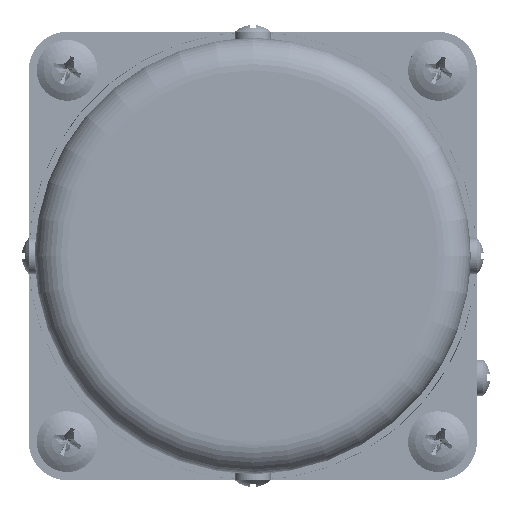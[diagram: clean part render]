
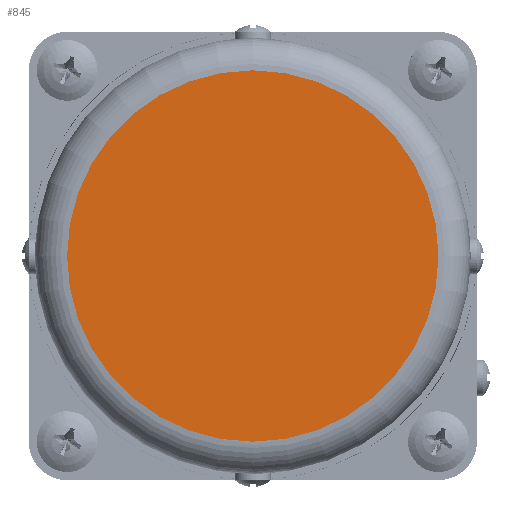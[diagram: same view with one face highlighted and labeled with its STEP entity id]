
A CAD part, left-side view. The second image highlights one B-rep face of the part: STEP entity #845.
In plain terms, the highlighted planar face has unit normal (-1, 0, 0).
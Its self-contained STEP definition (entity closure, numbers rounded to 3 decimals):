
#429=PLANE('',#6254);
#845=ADVANCED_FACE('',(#1252),#429,.T.);
#1252=FACE_OUTER_BOUND('',#1565,.T.);
#1565=EDGE_LOOP('',(#2484));
#2484=ORIENTED_EDGE('',*,*,#4524,.T.);
#3921=VERTEX_POINT('',#68301);
#4524=EDGE_CURVE('',#3921,#3921,#5854,.T.);
#5854=CIRCLE('',#6253,29.);
#6253=AXIS2_PLACEMENT_3D('',#68300,#6955,#6956);
#6254=AXIS2_PLACEMENT_3D('',#68302,#6957,#6958);
#6955=DIRECTION('',(-1.,0.,0.));
#6956=DIRECTION('',(0.,0.,-1.));
#6957=DIRECTION('',(-1.,0.,0.));
#6958=DIRECTION('',(0.,0.,-1.));
#68300=CARTESIAN_POINT('',(-136.,0.,0.));
#68301=CARTESIAN_POINT('',(-136.,0.,-29.));
#68302=CARTESIAN_POINT('',(-136.,0.,0.));
